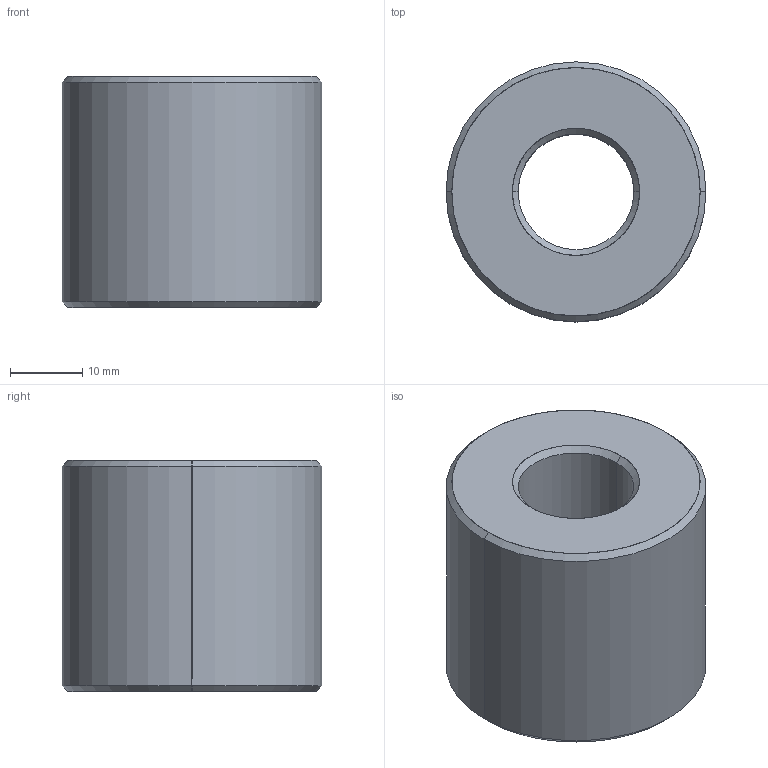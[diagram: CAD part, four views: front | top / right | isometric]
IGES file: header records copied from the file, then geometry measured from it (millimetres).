
Start section: SolidWorks IGES file using analytic representation for surfaces
Global section: file name: C:\Users\ianosborn\Desktop\L1330_v2\L1330_v2_20241024_IGES\L1330.R16-04.igs; native system: SolidWorks 2019; preprocessor: SolidWorks 2019; author: IanOsborn; date: 241024.102604; units: millimetre
Bounding box: 36 x 36 x 32 mm (x, y, z)
Surface area: 6708.1 mm2 (no closed solid volume)
Topology: 0 solids, 0 shells, 14 faces, 240 edges, 240 vertices
Faces by surface type: revolution 12, bspline 2
